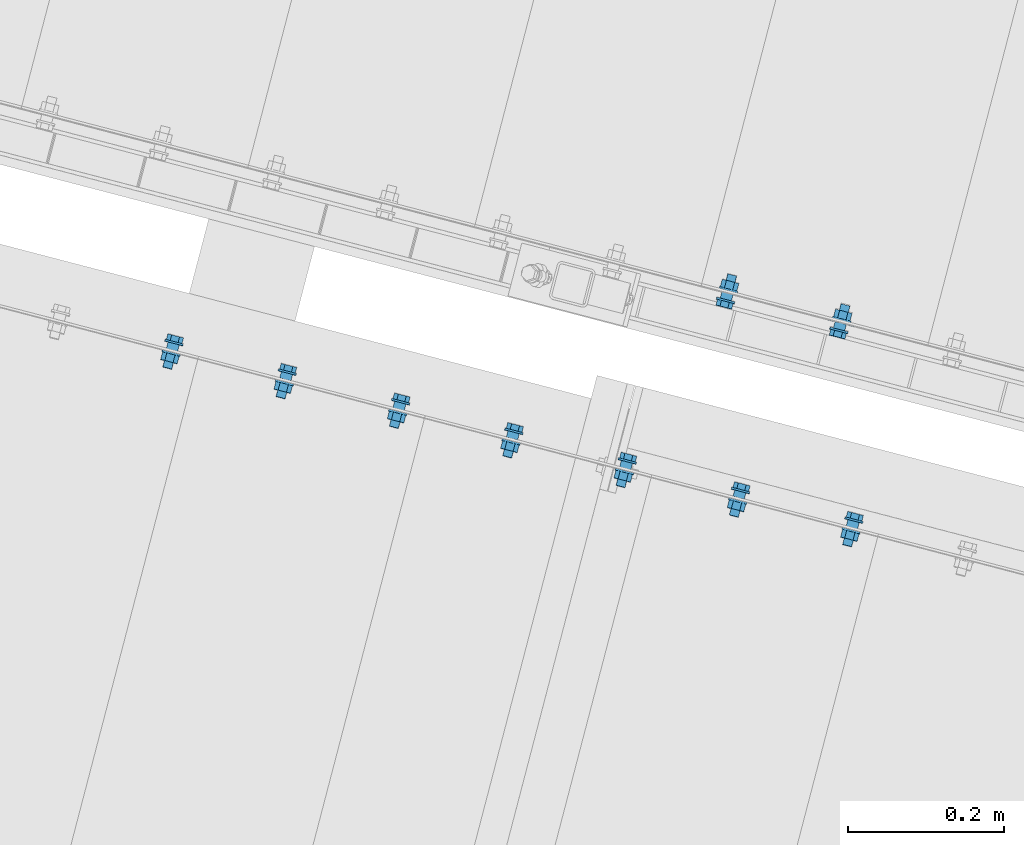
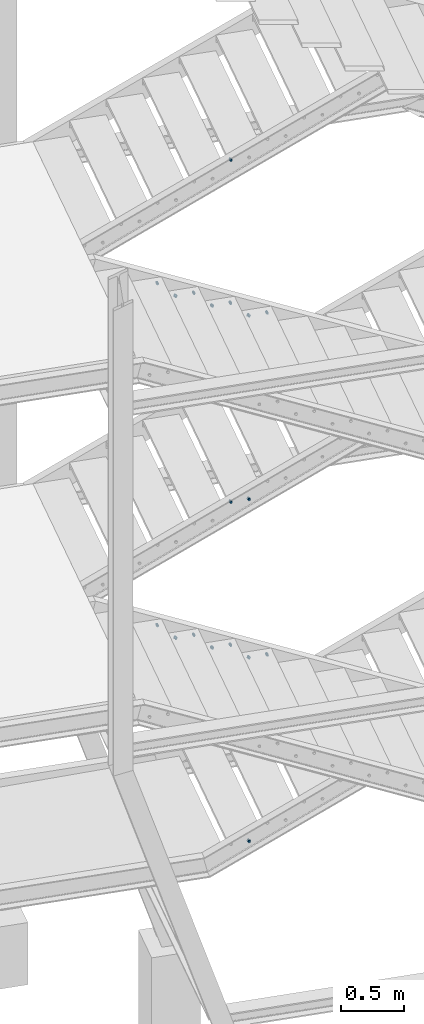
# One storey, part 139 of 169: 18 mechanical fasteners, 11 elements without a shape of their own.
"""IFC2X3 building model written with IfcOpenShell, lengths in millimetres."""

from ifc_helpers import new_model, si_unit, frame, frame_2d, origin_with_axes, origin_2d_with_axis, place, context, subcontext, project, spatial, polyline, circle_curve, parameter, trimmed, segment, composite_curve, circle, outline, extrude, source, transform, mapped, material, type_object, element, aggregate, save


model = new_model("IFC2X3")

# Units and contexts
model_context = context("Model", 3, precision=1e-05, world=origin_with_axes())
body_context = subcontext(model_context, "Body", "Model", "MODEL_VIEW")
ifc_project = project(units=[si_unit("LENGTHUNIT", "METRE", prefix="MILLI"), si_unit("AREAUNIT", "SQUARE_METRE"), si_unit("VOLUMEUNIT", "CUBIC_METRE"), si_unit("MASSUNIT", "GRAM", prefix="KILO"), si_unit("TIMEUNIT", "SECOND"), si_unit("PLANEANGLEUNIT", "RADIAN"), si_unit("SOLIDANGLEUNIT", "STERADIAN"), si_unit("THERMODYNAMICTEMPERATUREUNIT", "DEGREE_CELSIUS"), si_unit("LUMINOUSINTENSITYUNIT", "LUMEN")], contexts=[model_context])

# Site, building, storey
site_placement = place(None, origin_with_axes())
site = spatial("IfcSite", under=ifc_project, at=site_placement, Name="Undefined", CompositionType="ELEMENT")
building_placement = place(site_placement, origin_with_axes())
building = spatial("IfcBuilding", under=site, at=building_placement, Name="Undefined", CompositionType="ELEMENT")
storey_placement = place(building_placement, origin_with_axes())
storey = spatial("IfcBuildingStorey", under=building, at=storey_placement, Name="Undefined", CompositionType="ELEMENT", Elevation=0.0)

# Assembly, mechanical fastener
assembly_1_placement = place(storey_placement, origin_with_axes())
assembly_1 = element("IfcElementAssembly", 1, at=assembly_1_placement, inside=storey, Name="Steel Assembly", AssemblyPlace="NOTDEFINED", PredefinedType="RIGID_FRAME")
ifc_material = material(Name="Undefined")
discrete_accessory_type = type_object("IfcDiscreteAccessoryType", Name="Bolt assembly")
shared_shape_1 = source(origin_with_axes(), body_context, "Body", "SweptSolid", [
    extrude(circle(Radius=7.5, at=origin_2d_with_axis()), frame((0.0, -8.39999975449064, 0.0), z_axis=(0.0, 1.0, 0.0), x_axis=(1.0, 0.0, 0.0)), (0.0, 0.0, 1.0), 8.5),
    extrude(circle(Radius=7.5, at=origin_2d_with_axis()), frame((0.0, -0.100000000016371, 0.0), z_axis=(0.0, 1.0, 0.0), x_axis=(1.0, 0.0, 0.0)), (0.0, 0.0, 1.0), 3.1),
    extrude(outline(polyline([(10.39230484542, 0.0), (5.19615242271, 9.00000000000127), (-5.19615242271, 9.00000000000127), (-10.39230484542, 0.0), (-5.19615242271, -9.00000000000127), (5.19615242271, -9.00000000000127), (10.39230484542, 0.0)])), frame((0.0, -18.4999993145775, 0.0), z_axis=(0.0, 1.0, 0.0), x_axis=(1.0, 0.0, 0.0)), (0.0, 0.0, 1.0), 7.5),
    extrude(circle(Radius=6.0, at=origin_2d_with_axis()), frame((0.0, -10.9999999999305, 0.0), z_axis=(0.0, 1.0, 0.0), x_axis=(1.0, 0.0, 0.0)), (0.0, 0.0, 1.0), 35.0),
    extrude(circle(Radius=12.0, at=origin_2d_with_axis()), frame((0.0, -10.9999999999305, 0.0), z_axis=(0.0, 1.0, 0.0), x_axis=(1.0, 0.0, 0.0)), (0.0, 0.0, 1.0), 2.5),
    extrude(circle(Radius=12.0, at=origin_2d_with_axis()), frame((0.0, 2.99999999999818, 0.0), z_axis=(0.0, 1.0, 0.0), x_axis=(1.0, 0.0, 0.0)), (0.0, 0.0, 1.0), 2.5),
    extrude(outline(polyline([(10.96965511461, 0.0), (5.484827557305, 9.50000000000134), (-5.484827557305, 9.50000000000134), (-10.96965511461, 0.0), (-5.484827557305, -9.50000000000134), (5.484827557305, -9.50000000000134), (10.96965511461, 0.0)])), frame((0.0, 5.50000000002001, 0.0), z_axis=(0.0, 1.0, 0.0), x_axis=(1.0, 0.0, 0.0)), (0.0, 0.0, 1.0), 10.0),
])
mechanical_fastener_1_placement = place(assembly_1_placement, frame((-26468.1781171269, 7030.61741151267, 9650.09581681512), z_axis=(-2.54700353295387e-10, 0.0, -1.0), x_axis=(-0.967580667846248, 0.252562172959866, 0.0)))
mechanical_fastener_1 = element("IfcMechanicalFastener", 2, at=mechanical_fastener_1_placement, type_object=discrete_accessory_type, material=ifc_material, Name="Bolt assembly", NominalDiameter=12.0, NominalLength=35.0, context=body_context, shape_type="MappedRepresentation", body=[
    mapped(shared_shape_1, transform((264.999998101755, 3.26144800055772e-09, 24.9999997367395))),
])
aggregate(assembly_1, [mechanical_fastener_1])

assembly_2_placement = place(storey_placement, origin_with_axes())
assembly_2 = element("IfcElementAssembly", 3, at=assembly_2_placement, inside=storey, Name="Steel Assembly", AssemblyPlace="NOTDEFINED", PredefinedType="RIGID_FRAME")
mechanical_fastener_2_placement = place(assembly_2_placement, frame((-27692.442415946, 7091.76147492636, 8750.32161330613), z_axis=(-2.54700353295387e-10, 0.0, -1.0), x_axis=(0.96754609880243, -0.252694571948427, 0.0)))
mechanical_fastener_2 = element("IfcMechanicalFastener", 4, at=mechanical_fastener_2_placement, type_object=discrete_accessory_type, material=ifc_material, Name="Bolt assembly", NominalDiameter=12.0, NominalLength=35.0, context=body_context, shape_type="MappedRepresentation", body=[
    mapped(shared_shape_1, transform((264.999998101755, 3.26144800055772e-09, 24.9999997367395))),
])
aggregate(assembly_2, [mechanical_fastener_2])

assembly_3_placement = place(storey_placement, origin_with_axes())
assembly_3 = element("IfcElementAssembly", 5, at=assembly_3_placement, inside=storey, Name="Steel Assembly", AssemblyPlace="NOTDEFINED", PredefinedType="RIGID_FRAME")
mechanical_fastener_3_placement = place(assembly_3_placement, frame((-27402.1785828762, 7015.95310257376, 8600.32161330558), z_axis=(-2.54700353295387e-10, 0.0, -1.0), x_axis=(0.96754609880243, -0.252694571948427, 0.0)))
mechanical_fastener_3 = element("IfcMechanicalFastener", 6, at=mechanical_fastener_3_placement, type_object=discrete_accessory_type, material=ifc_material, Name="Bolt assembly", NominalDiameter=12.0, NominalLength=35.0, context=body_context, shape_type="MappedRepresentation", body=[
    mapped(shared_shape_1, transform((264.999998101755, 3.26144800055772e-09, 24.9999997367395))),
])

assembly_4_placement = place(storey_placement, origin_with_axes())
assembly_4 = element("IfcElementAssembly", 7, at=assembly_4_placement, inside=storey, Name="Steel Assembly", AssemblyPlace="NOTDEFINED", PredefinedType="RIGID_FRAME")
mechanical_fastener_4_placement = place(assembly_4_placement, frame((-27111.9147498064, 6940.14473022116, 8450.32161330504), z_axis=(-2.54700353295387e-10, 0.0, -1.0), x_axis=(0.96754609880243, -0.252694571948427, 0.0)))
mechanical_fastener_4 = element("IfcMechanicalFastener", 8, at=mechanical_fastener_4_placement, type_object=discrete_accessory_type, material=ifc_material, Name="Bolt assembly", NominalDiameter=12.0, NominalLength=35.0, context=body_context, shape_type="MappedRepresentation", body=[
    mapped(shared_shape_1, transform((264.999998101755, 3.26144800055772e-09, 24.9999997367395))),
])

assembly_5_placement = place(storey_placement, origin_with_axes())
assembly_5 = element("IfcElementAssembly", 9, at=assembly_5_placement, inside=storey, Name="Steel Assembly", AssemblyPlace="NOTDEFINED", PredefinedType="RIGID_FRAME")
mechanical_fastener_5_placement = place(assembly_5_placement, frame((-26821.6509167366, 6864.33635786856, 8300.32161330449), z_axis=(-2.54700353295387e-10, 0.0, -1.0), x_axis=(0.96754609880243, -0.252694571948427, 0.0)))
mechanical_fastener_5 = element("IfcMechanicalFastener", 10, at=mechanical_fastener_5_placement, type_object=discrete_accessory_type, material=ifc_material, Name="Bolt assembly", NominalDiameter=12.0, NominalLength=35.0, context=body_context, shape_type="MappedRepresentation", body=[
    mapped(shared_shape_1, transform((264.999998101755, 3.26144800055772e-09, 24.9999997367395))),
])

assembly_6_placement = place(storey_placement, origin_with_axes())
assembly_6 = element("IfcElementAssembly", 11, at=assembly_6_placement, inside=storey, Name="Steel Assembly", AssemblyPlace="NOTDEFINED", PredefinedType="RIGID_FRAME")
mechanical_fastener_6_placement = place(assembly_6_placement, frame((-26468.2921945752, 7030.18049656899, 6350.09584768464), z_axis=(-2.54700353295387e-10, 0.0, -1.0), x_axis=(-0.967580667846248, 0.252562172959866, 0.0)))
mechanical_fastener_6 = element("IfcMechanicalFastener", 12, at=mechanical_fastener_6_placement, type_object=discrete_accessory_type, material=ifc_material, Name="Bolt assembly", NominalDiameter=12.0, NominalLength=35.0, context=body_context, shape_type="MappedRepresentation", body=[
    mapped(shared_shape_1, transform((264.999998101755, 3.26144800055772e-09, 24.9999997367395))),
])

assembly_7_placement = place(storey_placement, origin_with_axes())
assembly_7 = element("IfcElementAssembly", 13, at=assembly_7_placement, inside=storey, Name="Steel Assembly", AssemblyPlace="NOTDEFINED", PredefinedType="RIGID_FRAME")
mechanical_fastener_7_placement = place(assembly_7_placement, frame((-27692.5564933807, 7091.32455998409, 5450.32164420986), z_axis=(-2.54700353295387e-10, 0.0, -1.0), x_axis=(0.96754609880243, -0.252694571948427, 0.0)))
mechanical_fastener_7 = element("IfcMechanicalFastener", 14, at=mechanical_fastener_7_placement, type_object=discrete_accessory_type, material=ifc_material, Name="Bolt assembly", NominalDiameter=12.0, NominalLength=35.0, context=body_context, shape_type="MappedRepresentation", body=[
    mapped(shared_shape_1, transform((264.999998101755, 3.26144800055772e-09, 24.9999997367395))),
])
aggregate(assembly_7, [mechanical_fastener_7])

assembly_8_placement = place(storey_placement, origin_with_axes())
assembly_8 = element("IfcElementAssembly", 15, at=assembly_8_placement, inside=storey, Name="Steel Assembly", AssemblyPlace="NOTDEFINED", PredefinedType="RIGID_FRAME")
mechanical_fastener_8_placement = place(assembly_8_placement, frame((-27402.2926603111, 7015.51618763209, 5300.32164420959), z_axis=(-2.54700353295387e-10, 0.0, -1.0), x_axis=(0.96754609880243, -0.252694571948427, 0.0)))
mechanical_fastener_8 = element("IfcMechanicalFastener", 16, at=mechanical_fastener_8_placement, type_object=discrete_accessory_type, material=ifc_material, Name="Bolt assembly", NominalDiameter=12.0, NominalLength=35.0, context=body_context, shape_type="MappedRepresentation", body=[
    mapped(shared_shape_1, transform((264.999998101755, 3.26144800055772e-09, 24.9999997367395))),
])

assembly_9_placement = place(storey_placement, origin_with_axes())
assembly_9 = element("IfcElementAssembly", 17, at=assembly_9_placement, inside=storey, Name="Steel Assembly", AssemblyPlace="NOTDEFINED", PredefinedType="RIGID_FRAME")
mechanical_fastener_9_placement = place(assembly_9_placement, frame((-27112.0288272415, 6939.70781528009, 5150.32164420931), z_axis=(-2.54700353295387e-10, 0.0, -1.0), x_axis=(0.96754609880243, -0.252694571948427, 0.0)))
mechanical_fastener_9 = element("IfcMechanicalFastener", 18, at=mechanical_fastener_9_placement, type_object=discrete_accessory_type, material=ifc_material, Name="Bolt assembly", NominalDiameter=12.0, NominalLength=35.0, context=body_context, shape_type="MappedRepresentation", body=[
    mapped(shared_shape_1, transform((264.999998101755, 3.26144800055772e-09, 24.9999997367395))),
])

assembly_10_placement = place(storey_placement, origin_with_axes())
assembly_10 = element("IfcElementAssembly", 19, at=assembly_10_placement, inside=storey, Name="Steel Assembly", AssemblyPlace="NOTDEFINED", PredefinedType="RIGID_FRAME")
mechanical_fastener_10_placement = place(assembly_10_placement, frame((-26821.7649941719, 6863.89944292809, 5000.32164420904), z_axis=(-2.54700353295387e-10, 0.0, -1.0), x_axis=(0.96754609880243, -0.252694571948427, 0.0)))
mechanical_fastener_10 = element("IfcMechanicalFastener", 20, at=mechanical_fastener_10_placement, type_object=discrete_accessory_type, material=ifc_material, Name="Bolt assembly", NominalDiameter=12.0, NominalLength=35.0, context=body_context, shape_type="MappedRepresentation", body=[
    mapped(shared_shape_1, transform((264.999998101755, 3.26144800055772e-09, 24.9999997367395))),
])

# Mechanical fastener
shared_shape_2 = source(origin_with_axes(), body_context, "Body", "SweptSolid", [
    extrude(circle(Radius=7.5, at=origin_2d_with_axis()), frame((0.0, -8.39999975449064, 0.0), z_axis=(0.0, 1.0, 0.0), x_axis=(1.0, 0.0, 0.0)), (0.0, 0.0, 1.0), 8.5),
    extrude(outline(composite_curve([segment(polyline([(-10.0, 7.5), (10.0, 7.5)]), True, "CONTINUOUS"), segment(trimmed(circle_curve(frame_2d((10.0, 0.0), x_axis=(0.0, 1.0)), 7.5), [parameter(0.0)], [parameter(3.14159265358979)], False, "PARAMETER"), True, "CONTINUOUS"), segment(polyline([(10.0, -7.5), (-10.0, -7.5)]), True, "CONTINUOUS"), segment(trimmed(circle_curve(frame_2d((-10.0, 0.0), x_axis=(0.0, -1.0)), 7.5), [parameter(0.0)], [parameter(3.14159265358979)], False, "PARAMETER"), True, "DISCONTINUOUS")], self_intersect=False)), frame((0.0, -0.100000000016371, 0.0), z_axis=(0.0, 1.0, 0.0), x_axis=(1.0, 0.0, 0.0)), (0.0, 0.0, 1.0), 3.1),
    extrude(outline(polyline([(10.39230484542, 0.0), (5.19615242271, 9.00000000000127), (-5.19615242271, 9.00000000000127), (-10.39230484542, 0.0), (-5.19615242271, -9.00000000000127), (5.19615242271, -9.00000000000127), (10.39230484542, 0.0)])), frame((0.0, -18.4999993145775, 0.0), z_axis=(0.0, 1.0, 0.0), x_axis=(1.0, 0.0, 0.0)), (0.0, 0.0, 1.0), 7.5),
    extrude(circle(Radius=6.0, at=origin_2d_with_axis()), frame((0.0, -10.9999999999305, 0.0), z_axis=(0.0, 1.0, 0.0), x_axis=(1.0, 0.0, 0.0)), (0.0, 0.0, 1.0), 35.0),
    extrude(circle(Radius=12.0, at=origin_2d_with_axis()), frame((0.0, -10.9999999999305, 0.0), z_axis=(0.0, 1.0, 0.0), x_axis=(1.0, 0.0, 0.0)), (0.0, 0.0, 1.0), 2.5),
    extrude(circle(Radius=12.0, at=origin_2d_with_axis()), frame((0.0, 2.99999999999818, 0.0), z_axis=(0.0, 1.0, 0.0), x_axis=(1.0, 0.0, 0.0)), (0.0, 0.0, 1.0), 2.5),
    extrude(outline(polyline([(10.96965511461, 0.0), (5.484827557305, 9.50000000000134), (-5.484827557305, 9.50000000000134), (-10.96965511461, 0.0), (-5.484827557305, -9.50000000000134), (5.484827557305, -9.50000000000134), (10.96965511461, 0.0)])), frame((0.0, 5.50000000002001, 0.0), z_axis=(0.0, 1.0, 0.0), x_axis=(1.0, 0.0, 0.0)), (0.0, 0.0, 1.0), 10.0),
])
mechanical_fastener_11_placement = place(assembly_3_placement, frame((-27402.1785828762, 7015.95310257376, 8600.32161330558), z_axis=(-2.54700353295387e-10, 0.0, -1.0), x_axis=(0.96754609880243, -0.252694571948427, 0.0)))
mechanical_fastener_11 = element("IfcMechanicalFastener", 21, at=mechanical_fastener_11_placement, type_object=discrete_accessory_type, material=ifc_material, Name="Bolt assembly", NominalDiameter=12.0, NominalLength=35.0, context=body_context, shape_type="MappedRepresentation", body=[
    mapped(shared_shape_2, transform((115.000000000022, -4.04725142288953e-10, 25.0))),
])

aggregate(assembly_3, [mechanical_fastener_11, mechanical_fastener_3])

shared_shape_3 = source(origin_with_axes(), body_context, "Body", "SweptSolid", [
    extrude(circle(Radius=7.5, at=origin_2d_with_axis()), frame((0.0, -8.39999975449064, 0.0), z_axis=(0.0, 1.0, 0.0), x_axis=(1.0, 0.0, 0.0)), (0.0, 0.0, 1.0), 8.5),
    extrude(outline(composite_curve([segment(polyline([(-10.0, 7.5), (10.0, 7.5)]), True, "CONTINUOUS"), segment(trimmed(circle_curve(frame_2d((10.0, 0.0), x_axis=(0.0, 1.0)), 7.5), [parameter(0.0)], [parameter(3.14159265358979)], False, "PARAMETER"), True, "CONTINUOUS"), segment(polyline([(10.0, -7.5), (-10.0, -7.5)]), True, "CONTINUOUS"), segment(trimmed(circle_curve(frame_2d((-10.0, 0.0), x_axis=(0.0, -1.0)), 7.5), [parameter(0.0)], [parameter(3.14159265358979)], False, "PARAMETER"), True, "DISCONTINUOUS")], self_intersect=False)), frame((0.0, -0.100000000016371, 0.0), z_axis=(0.0, 1.0, 0.0), x_axis=(1.0, 0.0, 0.0)), (0.0, 0.0, 1.0), 3.1),
    extrude(outline(polyline([(10.39230484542, 0.0), (5.19615242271, 9.00000000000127), (-5.19615242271, 9.00000000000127), (-10.39230484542, 0.0), (-5.19615242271, -9.00000000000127), (5.19615242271, -9.00000000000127), (10.39230484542, 0.0)])), frame((0.0, -18.4999993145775, 0.0), z_axis=(0.0, 1.0, 0.0), x_axis=(1.0, 0.0, 0.0)), (0.0, 0.0, 1.0), 7.5),
    extrude(circle(Radius=6.0, at=origin_2d_with_axis()), frame((0.0, -10.9999999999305, 0.0), z_axis=(0.0, 1.0, 0.0), x_axis=(1.0, 0.0, 0.0)), (0.0, 0.0, 1.0), 35.0),
    extrude(circle(Radius=12.0, at=origin_2d_with_axis()), frame((0.0, -10.9999999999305, 0.0), z_axis=(0.0, 1.0, 0.0), x_axis=(1.0, 0.0, 0.0)), (0.0, 0.0, 1.0), 2.5),
    extrude(circle(Radius=12.0, at=origin_2d_with_axis()), frame((0.0, 2.99999999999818, 0.0), z_axis=(0.0, 1.0, 0.0), x_axis=(1.0, 0.0, 0.0)), (0.0, 0.0, 1.0), 2.5),
    extrude(outline(polyline([(10.96965511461, 0.0), (5.484827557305, 9.50000000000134), (-5.484827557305, 9.50000000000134), (-10.96965511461, 0.0), (-5.484827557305, -9.50000000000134), (5.484827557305, -9.50000000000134), (10.96965511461, 0.0)])), frame((0.0, 5.50000000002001, 0.0), z_axis=(0.0, 1.0, 0.0), x_axis=(1.0, 0.0, 0.0)), (0.0, 0.0, 1.0), 10.0),
])
mechanical_fastener_12_placement = place(assembly_4_placement, frame((-27111.9147498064, 6940.14473022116, 8450.32161330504), z_axis=(-2.54700353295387e-10, 0.0, -1.0), x_axis=(0.96754609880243, -0.252694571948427, 0.0)))
mechanical_fastener_12 = element("IfcMechanicalFastener", 22, at=mechanical_fastener_12_placement, type_object=discrete_accessory_type, material=ifc_material, Name="Bolt assembly", NominalDiameter=12.0, NominalLength=35.0, context=body_context, shape_type="MappedRepresentation", body=[
    mapped(shared_shape_3, transform((115.000000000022, -4.04725142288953e-10, 25.0))),
])

aggregate(assembly_4, [mechanical_fastener_12, mechanical_fastener_4])

shared_shape_4 = source(origin_with_axes(), body_context, "Body", "SweptSolid", [
    extrude(circle(Radius=7.5, at=origin_2d_with_axis()), frame((0.0, -8.39999975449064, 0.0), z_axis=(0.0, 1.0, 0.0), x_axis=(1.0, 0.0, 0.0)), (0.0, 0.0, 1.0), 8.5),
    extrude(outline(composite_curve([segment(polyline([(-10.0, 7.5), (10.0, 7.5)]), True, "CONTINUOUS"), segment(trimmed(circle_curve(frame_2d((10.0, 0.0), x_axis=(0.0, 1.0)), 7.5), [parameter(0.0)], [parameter(3.14159265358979)], False, "PARAMETER"), True, "CONTINUOUS"), segment(polyline([(10.0, -7.5), (-10.0, -7.5)]), True, "CONTINUOUS"), segment(trimmed(circle_curve(frame_2d((-10.0, 0.0), x_axis=(0.0, -1.0)), 7.5), [parameter(0.0)], [parameter(3.14159265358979)], False, "PARAMETER"), True, "DISCONTINUOUS")], self_intersect=False)), frame((0.0, -0.100000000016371, 0.0), z_axis=(0.0, 1.0, 0.0), x_axis=(1.0, 0.0, 0.0)), (0.0, 0.0, 1.0), 3.1),
    extrude(outline(polyline([(10.39230484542, 0.0), (5.19615242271, 9.00000000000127), (-5.19615242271, 9.00000000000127), (-10.39230484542, 0.0), (-5.19615242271, -9.00000000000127), (5.19615242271, -9.00000000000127), (10.39230484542, 0.0)])), frame((0.0, -18.4999993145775, 0.0), z_axis=(0.0, 1.0, 0.0), x_axis=(1.0, 0.0, 0.0)), (0.0, 0.0, 1.0), 7.5),
    extrude(circle(Radius=6.0, at=origin_2d_with_axis()), frame((0.0, -10.9999999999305, 0.0), z_axis=(0.0, 1.0, 0.0), x_axis=(1.0, 0.0, 0.0)), (0.0, 0.0, 1.0), 35.0),
    extrude(circle(Radius=12.0, at=origin_2d_with_axis()), frame((0.0, -10.9999999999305, 0.0), z_axis=(0.0, 1.0, 0.0), x_axis=(1.0, 0.0, 0.0)), (0.0, 0.0, 1.0), 2.5),
    extrude(circle(Radius=12.0, at=origin_2d_with_axis()), frame((0.0, 2.99999999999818, 0.0), z_axis=(0.0, 1.0, 0.0), x_axis=(1.0, 0.0, 0.0)), (0.0, 0.0, 1.0), 2.5),
    extrude(outline(polyline([(10.96965511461, 0.0), (5.484827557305, 9.50000000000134), (-5.484827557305, 9.50000000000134), (-10.96965511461, 0.0), (-5.484827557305, -9.50000000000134), (5.484827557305, -9.50000000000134), (10.96965511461, 0.0)])), frame((0.0, 5.50000000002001, 0.0), z_axis=(0.0, 1.0, 0.0), x_axis=(1.0, 0.0, 0.0)), (0.0, 0.0, 1.0), 10.0),
])
mechanical_fastener_13_placement = place(assembly_5_placement, frame((-26821.6509167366, 6864.33635786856, 8300.32161330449), z_axis=(-2.54700353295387e-10, 0.0, -1.0), x_axis=(0.96754609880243, -0.252694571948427, 0.0)))
mechanical_fastener_13 = element("IfcMechanicalFastener", 23, at=mechanical_fastener_13_placement, type_object=discrete_accessory_type, material=ifc_material, Name="Bolt assembly", NominalDiameter=12.0, NominalLength=35.0, context=body_context, shape_type="MappedRepresentation", body=[
    mapped(shared_shape_4, transform((115.000000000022, -4.04725142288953e-10, 25.0))),
])

aggregate(assembly_5, [mechanical_fastener_13, mechanical_fastener_5])

shared_shape_5 = source(origin_with_axes(), body_context, "Body", "SweptSolid", [
    extrude(circle(Radius=7.5, at=origin_2d_with_axis()), frame((0.0, -8.39999975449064, 0.0), z_axis=(0.0, 1.0, 0.0), x_axis=(1.0, 0.0, 0.0)), (0.0, 0.0, 1.0), 8.5),
    extrude(outline(composite_curve([segment(polyline([(-10.0, 7.5), (10.0, 7.5)]), True, "CONTINUOUS"), segment(trimmed(circle_curve(frame_2d((10.0, 0.0), x_axis=(0.0, 1.0)), 7.5), [parameter(0.0)], [parameter(3.14159265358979)], False, "PARAMETER"), True, "CONTINUOUS"), segment(polyline([(10.0, -7.5), (-10.0, -7.5)]), True, "CONTINUOUS"), segment(trimmed(circle_curve(frame_2d((-10.0, 0.0), x_axis=(0.0, -1.0)), 7.5), [parameter(0.0)], [parameter(3.14159265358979)], False, "PARAMETER"), True, "DISCONTINUOUS")], self_intersect=False)), frame((0.0, -0.100000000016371, 0.0), z_axis=(0.0, 1.0, 0.0), x_axis=(1.0, 0.0, 0.0)), (0.0, 0.0, 1.0), 3.1),
    extrude(outline(polyline([(10.39230484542, 0.0), (5.19615242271, 9.00000000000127), (-5.19615242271, 9.00000000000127), (-10.39230484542, 0.0), (-5.19615242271, -9.00000000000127), (5.19615242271, -9.00000000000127), (10.39230484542, 0.0)])), frame((0.0, -18.4999993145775, 0.0), z_axis=(0.0, 1.0, 0.0), x_axis=(1.0, 0.0, 0.0)), (0.0, 0.0, 1.0), 7.5),
    extrude(circle(Radius=6.0, at=origin_2d_with_axis()), frame((0.0, -10.9999999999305, 0.0), z_axis=(0.0, 1.0, 0.0), x_axis=(1.0, 0.0, 0.0)), (0.0, 0.0, 1.0), 35.0),
    extrude(circle(Radius=12.0, at=origin_2d_with_axis()), frame((0.0, -10.9999999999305, 0.0), z_axis=(0.0, 1.0, 0.0), x_axis=(1.0, 0.0, 0.0)), (0.0, 0.0, 1.0), 2.5),
    extrude(circle(Radius=12.0, at=origin_2d_with_axis()), frame((0.0, 2.99999999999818, 0.0), z_axis=(0.0, 1.0, 0.0), x_axis=(1.0, 0.0, 0.0)), (0.0, 0.0, 1.0), 2.5),
    extrude(outline(polyline([(10.96965511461, 0.0), (5.484827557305, 9.50000000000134), (-5.484827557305, 9.50000000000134), (-10.96965511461, 0.0), (-5.484827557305, -9.50000000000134), (5.484827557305, -9.50000000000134), (10.96965511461, 0.0)])), frame((0.0, 5.50000000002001, 0.0), z_axis=(0.0, 1.0, 0.0), x_axis=(1.0, 0.0, 0.0)), (0.0, 0.0, 1.0), 10.0),
])
mechanical_fastener_14_placement = place(assembly_6_placement, frame((-26468.2921945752, 7030.18049656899, 6350.09584768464), z_axis=(-2.54700353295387e-10, 0.0, -1.0), x_axis=(-0.967580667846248, 0.252562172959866, 0.0)))
mechanical_fastener_14 = element("IfcMechanicalFastener", 24, at=mechanical_fastener_14_placement, type_object=discrete_accessory_type, material=ifc_material, Name="Bolt assembly", NominalDiameter=12.0, NominalLength=35.0, context=body_context, shape_type="MappedRepresentation", body=[
    mapped(shared_shape_5, transform((115.000000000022, -4.04725142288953e-10, 25.0))),
])

aggregate(assembly_6, [mechanical_fastener_14, mechanical_fastener_6])

shared_shape_6 = source(origin_with_axes(), body_context, "Body", "SweptSolid", [
    extrude(circle(Radius=7.5, at=origin_2d_with_axis()), frame((0.0, -8.39999975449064, 0.0), z_axis=(0.0, 1.0, 0.0), x_axis=(1.0, 0.0, 0.0)), (0.0, 0.0, 1.0), 8.5),
    extrude(outline(composite_curve([segment(polyline([(-10.0, 7.5), (10.0, 7.5)]), True, "CONTINUOUS"), segment(trimmed(circle_curve(frame_2d((10.0, 0.0), x_axis=(0.0, 1.0)), 7.5), [parameter(0.0)], [parameter(3.14159265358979)], False, "PARAMETER"), True, "CONTINUOUS"), segment(polyline([(10.0, -7.5), (-10.0, -7.5)]), True, "CONTINUOUS"), segment(trimmed(circle_curve(frame_2d((-10.0, 0.0), x_axis=(0.0, -1.0)), 7.5), [parameter(0.0)], [parameter(3.14159265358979)], False, "PARAMETER"), True, "DISCONTINUOUS")], self_intersect=False)), frame((0.0, -0.100000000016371, 0.0), z_axis=(0.0, 1.0, 0.0), x_axis=(1.0, 0.0, 0.0)), (0.0, 0.0, 1.0), 3.1),
    extrude(outline(polyline([(10.39230484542, 0.0), (5.19615242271, 9.00000000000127), (-5.19615242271, 9.00000000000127), (-10.39230484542, 0.0), (-5.19615242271, -9.00000000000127), (5.19615242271, -9.00000000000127), (10.39230484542, 0.0)])), frame((0.0, -18.4999993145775, 0.0), z_axis=(0.0, 1.0, 0.0), x_axis=(1.0, 0.0, 0.0)), (0.0, 0.0, 1.0), 7.5),
    extrude(circle(Radius=6.0, at=origin_2d_with_axis()), frame((0.0, -10.9999999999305, 0.0), z_axis=(0.0, 1.0, 0.0), x_axis=(1.0, 0.0, 0.0)), (0.0, 0.0, 1.0), 35.0),
    extrude(circle(Radius=12.0, at=origin_2d_with_axis()), frame((0.0, -10.9999999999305, 0.0), z_axis=(0.0, 1.0, 0.0), x_axis=(1.0, 0.0, 0.0)), (0.0, 0.0, 1.0), 2.5),
    extrude(circle(Radius=12.0, at=origin_2d_with_axis()), frame((0.0, 2.99999999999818, 0.0), z_axis=(0.0, 1.0, 0.0), x_axis=(1.0, 0.0, 0.0)), (0.0, 0.0, 1.0), 2.5),
    extrude(outline(polyline([(10.96965511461, 0.0), (5.484827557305, 9.50000000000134), (-5.484827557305, 9.50000000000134), (-10.96965511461, 0.0), (-5.484827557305, -9.50000000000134), (5.484827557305, -9.50000000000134), (10.96965511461, 0.0)])), frame((0.0, 5.50000000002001, 0.0), z_axis=(0.0, 1.0, 0.0), x_axis=(1.0, 0.0, 0.0)), (0.0, 0.0, 1.0), 10.0),
])
mechanical_fastener_15_placement = place(assembly_8_placement, frame((-27402.2926603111, 7015.51618763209, 5300.32164420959), z_axis=(-2.54700353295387e-10, 0.0, -1.0), x_axis=(0.96754609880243, -0.252694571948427, 0.0)))
mechanical_fastener_15 = element("IfcMechanicalFastener", 25, at=mechanical_fastener_15_placement, type_object=discrete_accessory_type, material=ifc_material, Name="Bolt assembly", NominalDiameter=12.0, NominalLength=35.0, context=body_context, shape_type="MappedRepresentation", body=[
    mapped(shared_shape_6, transform((115.000000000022, -4.04725142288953e-10, 25.0))),
])

aggregate(assembly_8, [mechanical_fastener_15, mechanical_fastener_8])

shared_shape_7 = source(origin_with_axes(), body_context, "Body", "SweptSolid", [
    extrude(circle(Radius=7.5, at=origin_2d_with_axis()), frame((0.0, -8.39999975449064, 0.0), z_axis=(0.0, 1.0, 0.0), x_axis=(1.0, 0.0, 0.0)), (0.0, 0.0, 1.0), 8.5),
    extrude(outline(composite_curve([segment(polyline([(-10.0, 7.5), (10.0, 7.5)]), True, "CONTINUOUS"), segment(trimmed(circle_curve(frame_2d((10.0, 0.0), x_axis=(0.0, 1.0)), 7.5), [parameter(0.0)], [parameter(3.14159265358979)], False, "PARAMETER"), True, "CONTINUOUS"), segment(polyline([(10.0, -7.5), (-10.0, -7.5)]), True, "CONTINUOUS"), segment(trimmed(circle_curve(frame_2d((-10.0, 0.0), x_axis=(0.0, -1.0)), 7.5), [parameter(0.0)], [parameter(3.14159265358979)], False, "PARAMETER"), True, "DISCONTINUOUS")], self_intersect=False)), frame((0.0, -0.100000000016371, 0.0), z_axis=(0.0, 1.0, 0.0), x_axis=(1.0, 0.0, 0.0)), (0.0, 0.0, 1.0), 3.1),
    extrude(outline(polyline([(10.39230484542, 0.0), (5.19615242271, 9.00000000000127), (-5.19615242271, 9.00000000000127), (-10.39230484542, 0.0), (-5.19615242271, -9.00000000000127), (5.19615242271, -9.00000000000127), (10.39230484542, 0.0)])), frame((0.0, -18.4999993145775, 0.0), z_axis=(0.0, 1.0, 0.0), x_axis=(1.0, 0.0, 0.0)), (0.0, 0.0, 1.0), 7.5),
    extrude(circle(Radius=6.0, at=origin_2d_with_axis()), frame((0.0, -10.9999999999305, 0.0), z_axis=(0.0, 1.0, 0.0), x_axis=(1.0, 0.0, 0.0)), (0.0, 0.0, 1.0), 35.0),
    extrude(circle(Radius=12.0, at=origin_2d_with_axis()), frame((0.0, -10.9999999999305, 0.0), z_axis=(0.0, 1.0, 0.0), x_axis=(1.0, 0.0, 0.0)), (0.0, 0.0, 1.0), 2.5),
    extrude(circle(Radius=12.0, at=origin_2d_with_axis()), frame((0.0, 2.99999999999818, 0.0), z_axis=(0.0, 1.0, 0.0), x_axis=(1.0, 0.0, 0.0)), (0.0, 0.0, 1.0), 2.5),
    extrude(outline(polyline([(10.96965511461, 0.0), (5.484827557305, 9.50000000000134), (-5.484827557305, 9.50000000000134), (-10.96965511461, 0.0), (-5.484827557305, -9.50000000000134), (5.484827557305, -9.50000000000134), (10.96965511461, 0.0)])), frame((0.0, 5.50000000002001, 0.0), z_axis=(0.0, 1.0, 0.0), x_axis=(1.0, 0.0, 0.0)), (0.0, 0.0, 1.0), 10.0),
])
mechanical_fastener_16_placement = place(assembly_9_placement, frame((-27112.0288272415, 6939.70781528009, 5150.32164420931), z_axis=(-2.54700353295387e-10, 0.0, -1.0), x_axis=(0.96754609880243, -0.252694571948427, 0.0)))
mechanical_fastener_16 = element("IfcMechanicalFastener", 26, at=mechanical_fastener_16_placement, type_object=discrete_accessory_type, material=ifc_material, Name="Bolt assembly", NominalDiameter=12.0, NominalLength=35.0, context=body_context, shape_type="MappedRepresentation", body=[
    mapped(shared_shape_7, transform((115.000000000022, -4.04725142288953e-10, 25.0))),
])

aggregate(assembly_9, [mechanical_fastener_16, mechanical_fastener_9])

shared_shape_8 = source(origin_with_axes(), body_context, "Body", "SweptSolid", [
    extrude(circle(Radius=7.5, at=origin_2d_with_axis()), frame((0.0, -8.39999975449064, 0.0), z_axis=(0.0, 1.0, 0.0), x_axis=(1.0, 0.0, 0.0)), (0.0, 0.0, 1.0), 8.5),
    extrude(outline(composite_curve([segment(polyline([(-10.0, 7.5), (10.0, 7.5)]), True, "CONTINUOUS"), segment(trimmed(circle_curve(frame_2d((10.0, 0.0), x_axis=(0.0, 1.0)), 7.5), [parameter(0.0)], [parameter(3.14159265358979)], False, "PARAMETER"), True, "CONTINUOUS"), segment(polyline([(10.0, -7.5), (-10.0, -7.5)]), True, "CONTINUOUS"), segment(trimmed(circle_curve(frame_2d((-10.0, 0.0), x_axis=(0.0, -1.0)), 7.5), [parameter(0.0)], [parameter(3.14159265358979)], False, "PARAMETER"), True, "DISCONTINUOUS")], self_intersect=False)), frame((0.0, -0.100000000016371, 0.0), z_axis=(0.0, 1.0, 0.0), x_axis=(1.0, 0.0, 0.0)), (0.0, 0.0, 1.0), 3.1),
    extrude(outline(polyline([(10.39230484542, 0.0), (5.19615242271, 9.00000000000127), (-5.19615242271, 9.00000000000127), (-10.39230484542, 0.0), (-5.19615242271, -9.00000000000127), (5.19615242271, -9.00000000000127), (10.39230484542, 0.0)])), frame((0.0, -18.4999993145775, 0.0), z_axis=(0.0, 1.0, 0.0), x_axis=(1.0, 0.0, 0.0)), (0.0, 0.0, 1.0), 7.5),
    extrude(circle(Radius=6.0, at=origin_2d_with_axis()), frame((0.0, -10.9999999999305, 0.0), z_axis=(0.0, 1.0, 0.0), x_axis=(1.0, 0.0, 0.0)), (0.0, 0.0, 1.0), 35.0),
    extrude(circle(Radius=12.0, at=origin_2d_with_axis()), frame((0.0, -10.9999999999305, 0.0), z_axis=(0.0, 1.0, 0.0), x_axis=(1.0, 0.0, 0.0)), (0.0, 0.0, 1.0), 2.5),
    extrude(circle(Radius=12.0, at=origin_2d_with_axis()), frame((0.0, 2.99999999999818, 0.0), z_axis=(0.0, 1.0, 0.0), x_axis=(1.0, 0.0, 0.0)), (0.0, 0.0, 1.0), 2.5),
    extrude(outline(polyline([(10.96965511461, 0.0), (5.484827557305, 9.50000000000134), (-5.484827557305, 9.50000000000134), (-10.96965511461, 0.0), (-5.484827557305, -9.50000000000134), (5.484827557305, -9.50000000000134), (10.96965511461, 0.0)])), frame((0.0, 5.50000000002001, 0.0), z_axis=(0.0, 1.0, 0.0), x_axis=(1.0, 0.0, 0.0)), (0.0, 0.0, 1.0), 10.0),
])
mechanical_fastener_17_placement = place(assembly_10_placement, frame((-26821.7649941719, 6863.89944292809, 5000.32164420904), z_axis=(-2.54700353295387e-10, 0.0, -1.0), x_axis=(0.96754609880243, -0.252694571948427, 0.0)))
mechanical_fastener_17 = element("IfcMechanicalFastener", 27, at=mechanical_fastener_17_placement, type_object=discrete_accessory_type, material=ifc_material, Name="Bolt assembly", NominalDiameter=12.0, NominalLength=35.0, context=body_context, shape_type="MappedRepresentation", body=[
    mapped(shared_shape_8, transform((115.000000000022, -4.04725142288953e-10, 25.0))),
])

aggregate(assembly_10, [mechanical_fastener_17, mechanical_fastener_10])

# Assembly, mechanical fastener
assembly_11_placement = place(storey_placement, origin_with_axes())
assembly_11 = element("IfcElementAssembly", 28, at=assembly_11_placement, inside=storey, Name="Steel Assembly", AssemblyPlace="NOTDEFINED", PredefinedType="RIGID_FRAME")
shared_shape_9 = source(origin_with_axes(), body_context, "Body", "SweptSolid", [
    extrude(circle(Radius=7.5, at=origin_2d_with_axis()), frame((0.0, -8.39999975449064, 0.0), z_axis=(0.0, 1.0, 0.0), x_axis=(1.0, 0.0, 0.0)), (0.0, 0.0, 1.0), 8.5),
    extrude(outline(composite_curve([segment(polyline([(-10.0, 7.5), (10.0, 7.5)]), True, "CONTINUOUS"), segment(trimmed(circle_curve(frame_2d((10.0, 0.0), x_axis=(0.0, 1.0)), 7.5), [parameter(0.0)], [parameter(3.14159265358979)], False, "PARAMETER"), True, "CONTINUOUS"), segment(polyline([(10.0, -7.5), (-10.0, -7.5)]), True, "CONTINUOUS"), segment(trimmed(circle_curve(frame_2d((-10.0, 0.0), x_axis=(0.0, -1.0)), 7.5), [parameter(0.0)], [parameter(3.14159265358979)], False, "PARAMETER"), True, "DISCONTINUOUS")], self_intersect=False)), frame((0.0, -0.100000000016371, 0.0), z_axis=(0.0, 1.0, 0.0), x_axis=(1.0, 0.0, 0.0)), (0.0, 0.0, 1.0), 3.1),
    extrude(outline(polyline([(10.39230484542, 0.0), (5.19615242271, 9.00000000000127), (-5.19615242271, 9.00000000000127), (-10.39230484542, 0.0), (-5.19615242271, -9.00000000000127), (5.19615242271, -9.00000000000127), (10.39230484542, 0.0)])), frame((0.0, -18.4999993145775, 0.0), z_axis=(0.0, 1.0, 0.0), x_axis=(1.0, 0.0, 0.0)), (0.0, 0.0, 1.0), 7.5),
    extrude(circle(Radius=6.0, at=origin_2d_with_axis()), frame((0.0, -10.9999999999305, 0.0), z_axis=(0.0, 1.0, 0.0), x_axis=(1.0, 0.0, 0.0)), (0.0, 0.0, 1.0), 35.0),
    extrude(circle(Radius=12.0, at=origin_2d_with_axis()), frame((0.0, -10.9999999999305, 0.0), z_axis=(0.0, 1.0, 0.0), x_axis=(1.0, 0.0, 0.0)), (0.0, 0.0, 1.0), 2.5),
    extrude(circle(Radius=12.0, at=origin_2d_with_axis()), frame((0.0, 2.99999999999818, 0.0), z_axis=(0.0, 1.0, 0.0), x_axis=(1.0, 0.0, 0.0)), (0.0, 0.0, 1.0), 2.5),
    extrude(outline(polyline([(10.96965511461, 0.0), (5.484827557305, 9.50000000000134), (-5.484827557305, 9.50000000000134), (-10.96965511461, 0.0), (-5.484827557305, -9.50000000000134), (5.484827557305, -9.50000000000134), (10.96965511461, 0.0)])), frame((0.0, 5.50000000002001, 0.0), z_axis=(0.0, 1.0, 0.0), x_axis=(1.0, 0.0, 0.0)), (0.0, 0.0, 1.0), 10.0),
])
mechanical_fastener_18_placement = place(assembly_11_placement, frame((-26468.4062800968, 7029.74358397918, 3050.09587438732), z_axis=(-2.54700353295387e-10, 0.0, -1.0), x_axis=(-0.967580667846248, 0.252562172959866, 0.0)))
mechanical_fastener_18 = element("IfcMechanicalFastener", 29, at=mechanical_fastener_18_placement, type_object=discrete_accessory_type, material=ifc_material, Name="Bolt assembly", NominalDiameter=12.0, NominalLength=35.0, context=body_context, shape_type="MappedRepresentation", body=[
    mapped(shared_shape_9, transform((115.000000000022, -4.04725142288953e-10, 25.0))),
])
aggregate(assembly_11, [mechanical_fastener_18])

save(model, "model.ifc")
